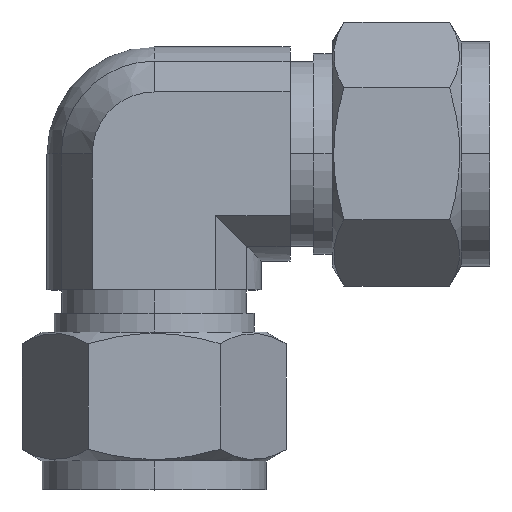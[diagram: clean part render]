
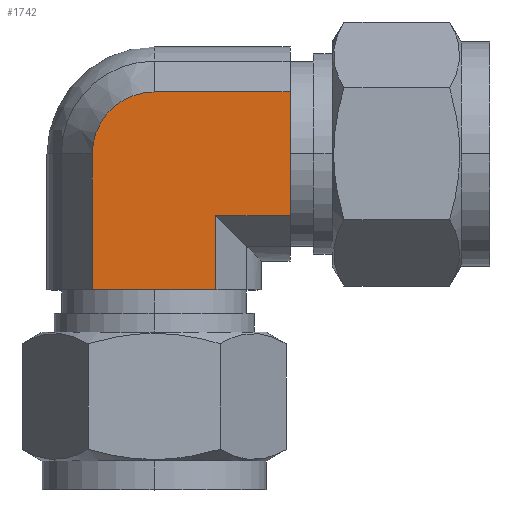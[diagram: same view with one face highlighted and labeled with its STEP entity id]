
A CAD part, top view. The second image highlights one B-rep face of the part: STEP entity #1742.
In plain terms, the highlighted planar face has unit normal (0, 0, 1).
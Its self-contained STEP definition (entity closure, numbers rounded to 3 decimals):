
#71 = CARTESIAN_POINT ( 'NONE',  ( 6.87, -15.1, 11.9 ) ) ;
#72 = DIRECTION ( 'NONE',  ( 0., 1., 0. ) ) ;
#73 = VECTOR ( 'NONE', #72, 1000. ) ;
#74 = CARTESIAN_POINT ( 'NONE',  ( 6.87, -15.1, 11.9 ) ) ;
#75 = LINE ( 'NONE', #74, #73 ) ;
#76 = CARTESIAN_POINT ( 'NONE',  ( 6.87, -6.87, 11.9 ) ) ;
#245 = CARTESIAN_POINT ( 'NONE',  ( -6.87, -15.1, 11.9 ) ) ;
#246 = DIRECTION ( 'NONE',  ( -1., 0., 0. ) ) ;
#247 = VECTOR ( 'NONE', #246, 1000. ) ;
#248 = CARTESIAN_POINT ( 'NONE',  ( 6.87, -15.1, 11.9 ) ) ;
#249 = LINE ( 'NONE', #248, #247 ) ;
#368 = DIRECTION ( 'NONE',  ( 1., 0., 0. ) ) ;
#369 = DIRECTION ( 'NONE',  ( 0., 0., -1. ) ) ;
#370 = CARTESIAN_POINT ( 'NONE',  ( 6.87, -15.1, 11.9 ) ) ;
#371 = AXIS2_PLACEMENT_3D ( 'NONE', #370, #369, #368 ) ;
#373 = PLANE ( 'NONE',  #371 ) ;
#374 = FACE_OUTER_BOUND ( 'NONE', #1743, .T. ) ;
#375 = CARTESIAN_POINT ( 'NONE',  ( 0., 6.87, 11.9 ) ) ;
#376 = DIRECTION ( 'NONE',  ( -1., 0., 0. ) ) ;
#377 = VECTOR ( 'NONE', #376, 1000. ) ;
#378 = CARTESIAN_POINT ( 'NONE',  ( 15.1, 6.87, 11.9 ) ) ;
#379 = LINE ( 'NONE', #378, #377 ) ;
#380 = CARTESIAN_POINT ( 'NONE',  ( 15.1, 6.87, 11.9 ) ) ;
#381 = DIRECTION ( 'NONE',  ( 0., -1., 0. ) ) ;
#382 = VECTOR ( 'NONE', #381, 1000. ) ;
#383 = CARTESIAN_POINT ( 'NONE',  ( 15.1, 6.87, 11.9 ) ) ;
#384 = LINE ( 'NONE', #383, #382 ) ;
#385 = CARTESIAN_POINT ( 'NONE',  ( 15.1, -6.87, 11.9 ) ) ;
#386 = DIRECTION ( 'NONE',  ( -1., 0., 0. ) ) ;
#387 = VECTOR ( 'NONE', #386, 1000. ) ;
#388 = CARTESIAN_POINT ( 'NONE',  ( 15.1, -6.87, 11.9 ) ) ;
#389 = LINE ( 'NONE', #388, #387 ) ;
#1120 = DIRECTION ( 'NONE',  ( 0., 1., 0. ) ) ;
#1121 = VECTOR ( 'NONE', #1120, 1000. ) ;
#1122 = CARTESIAN_POINT ( 'NONE',  ( -6.87, -15.1, 11.9 ) ) ;
#1123 = LINE ( 'NONE', #1122, #1121 ) ;
#1124 = CARTESIAN_POINT ( 'NONE',  ( -6.87, 0., 11.9 ) ) ;
#1478 = DIRECTION ( 'NONE',  ( 0., 1., 0. ) ) ;
#1479 = DIRECTION ( 'NONE',  ( 0., 0., -1. ) ) ;
#1480 = CARTESIAN_POINT ( 'NONE',  ( 0., 0., 11.9 ) ) ;
#1481 = AXIS2_PLACEMENT_3D ( 'NONE', #1480, #1479, #1478 ) ;
#1482 = CIRCLE ( 'NONE', #1481, 6.87 ) ;
#1652 = VERTEX_POINT ( 'NONE', #76 ) ;
#1654 = EDGE_CURVE ( 'NONE', #1655, #1652, #75, .T. ) ;
#1655 = VERTEX_POINT ( 'NONE', #71 ) ;
#1732 = EDGE_CURVE ( 'NONE', #1733, #1652, #389, .T. ) ;
#1733 = VERTEX_POINT ( 'NONE', #385 ) ;
#1734 = ORIENTED_EDGE ( 'NONE', *, *, #1735, .F. ) ;
#1735 = EDGE_CURVE ( 'NONE', #1736, #1733, #384, .T. ) ;
#1736 = VERTEX_POINT ( 'NONE', #380 ) ;
#1737 = ORIENTED_EDGE ( 'NONE', *, *, #1738, .T. ) ;
#1738 = EDGE_CURVE ( 'NONE', #1736, #1739, #379, .T. ) ;
#1739 = VERTEX_POINT ( 'NONE', #375 ) ;
#1740 = ORIENTED_EDGE ( 'NONE', *, *, #2239, .F. ) ;
#1742 = ADVANCED_FACE ( 'NONE', ( #374 ), #373, .F. ) ;
#1743 = EDGE_LOOP ( 'NONE', ( #1744, #1745, #1734, #1737, #1740, #2177, #2179 ) ) ;
#1744 = ORIENTED_EDGE ( 'NONE', *, *, #1654, .T. ) ;
#1745 = ORIENTED_EDGE ( 'NONE', *, *, #1732, .F. ) ;
#1802 = EDGE_CURVE ( 'NONE', #1655, #1803, #249, .T. ) ;
#1803 = VERTEX_POINT ( 'NONE', #245 ) ;
#2176 = VERTEX_POINT ( 'NONE', #1124 ) ;
#2177 = ORIENTED_EDGE ( 'NONE', *, *, #2178, .F. ) ;
#2178 = EDGE_CURVE ( 'NONE', #1803, #2176, #1123, .T. ) ;
#2179 = ORIENTED_EDGE ( 'NONE', *, *, #1802, .F. ) ;
#2239 = EDGE_CURVE ( 'NONE', #2176, #1739, #1482, .T. ) ;
